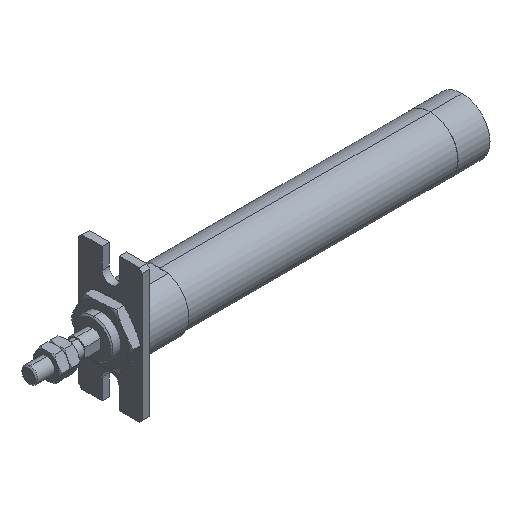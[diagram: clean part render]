
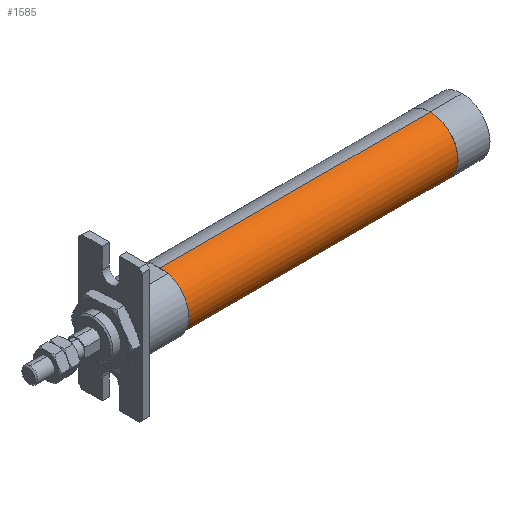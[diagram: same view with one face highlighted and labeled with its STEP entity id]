
A CAD part, isometric view. The second image highlights one B-rep face of the part: STEP entity #1585.
In plain terms, the highlighted cylindrical face has radius 8.7 mm (diameter 17.4 mm), a partial arc.
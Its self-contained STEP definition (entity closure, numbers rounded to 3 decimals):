
#128 = CARTESIAN_POINT ( 'NONE',  ( 0., 0., 0. ) ) ;
#142 = DIRECTION ( 'NONE',  ( -1., 0., 0. ) ) ;
#288 = VERTEX_POINT ( 'NONE', #717 ) ;
#305 = DIRECTION ( 'NONE',  ( 0., 0., 1. ) ) ;
#366 = VECTOR ( 'NONE', #3754, 1000. ) ;
#440 = CARTESIAN_POINT ( 'NONE',  ( 126., 0., 8.7 ) ) ;
#471 = DIRECTION ( 'NONE',  ( 0., 0., 1. ) ) ;
#494 = EDGE_CURVE ( 'NONE', #288, #990, #1835, .T. ) ;
#510 = AXIS2_PLACEMENT_3D ( 'NONE', #933, #1320, #305 ) ;
#605 = CIRCLE ( 'NONE', #510, 8.7 ) ;
#639 = FACE_OUTER_BOUND ( 'NONE', #2225, .T. ) ;
#652 = EDGE_CURVE ( 'NONE', #1485, #2895, #694, .T. ) ;
#694 = LINE ( 'NONE', #2453, #1663 ) ;
#717 = CARTESIAN_POINT ( 'NONE',  ( 126., 0., -8.7 ) ) ;
#732 = ORIENTED_EDGE ( 'NONE', *, *, #1322, .F. ) ;
#933 = CARTESIAN_POINT ( 'NONE',  ( 41., 0., 0. ) ) ;
#990 = VERTEX_POINT ( 'NONE', #3143 ) ;
#1037 = CARTESIAN_POINT ( 'NONE',  ( 126., 0., 0. ) ) ;
#1176 = DIRECTION ( 'NONE',  ( -1., 0., 0. ) ) ;
#1320 = DIRECTION ( 'NONE',  ( -1., 0., 0. ) ) ;
#1322 = EDGE_CURVE ( 'NONE', #990, #2895, #605, .T. ) ;
#1485 = VERTEX_POINT ( 'NONE', #440 ) ;
#1585 = ADVANCED_FACE ( 'NONE', ( #639 ), #3782, .T. ) ;
#1608 = EDGE_CURVE ( 'NONE', #288, #1485, #2679, .T. ) ;
#1663 = VECTOR ( 'NONE', #1176, 1000. ) ;
#1831 = ORIENTED_EDGE ( 'NONE', *, *, #652, .T. ) ;
#1835 = LINE ( 'NONE', #3265, #366 ) ;
#1854 = ORIENTED_EDGE ( 'NONE', *, *, #1608, .T. ) ;
#2011 = AXIS2_PLACEMENT_3D ( 'NONE', #1037, #142, #3417 ) ;
#2165 = DIRECTION ( 'NONE',  ( -1., 0., 0. ) ) ;
#2225 = EDGE_LOOP ( 'NONE', ( #2313, #1854, #1831, #732 ) ) ;
#2313 = ORIENTED_EDGE ( 'NONE', *, *, #494, .F. ) ;
#2453 = CARTESIAN_POINT ( 'NONE',  ( 0., 0., 8.7 ) ) ;
#2679 = CIRCLE ( 'NONE', #2011, 8.7 ) ;
#2875 = CARTESIAN_POINT ( 'NONE',  ( 41., 0., 8.7 ) ) ;
#2895 = VERTEX_POINT ( 'NONE', #2875 ) ;
#3143 = CARTESIAN_POINT ( 'NONE',  ( 41., 0., -8.7 ) ) ;
#3163 = AXIS2_PLACEMENT_3D ( 'NONE', #128, #2165, #471 ) ;
#3265 = CARTESIAN_POINT ( 'NONE',  ( 0., 0., -8.7 ) ) ;
#3417 = DIRECTION ( 'NONE',  ( 0., 0., 1. ) ) ;
#3754 = DIRECTION ( 'NONE',  ( -1., 0., 0. ) ) ;
#3782 = CYLINDRICAL_SURFACE ( 'NONE', #3163, 8.7 ) ;
